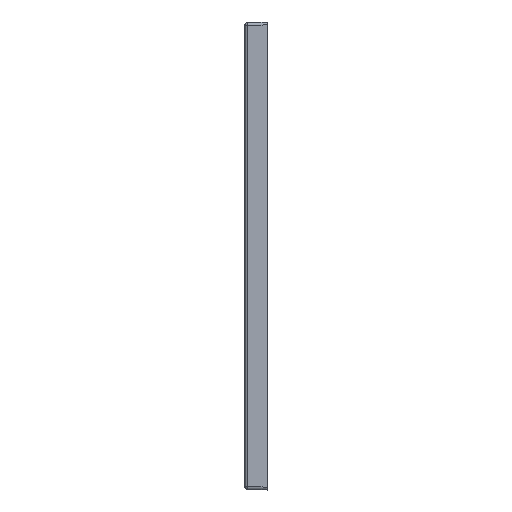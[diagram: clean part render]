
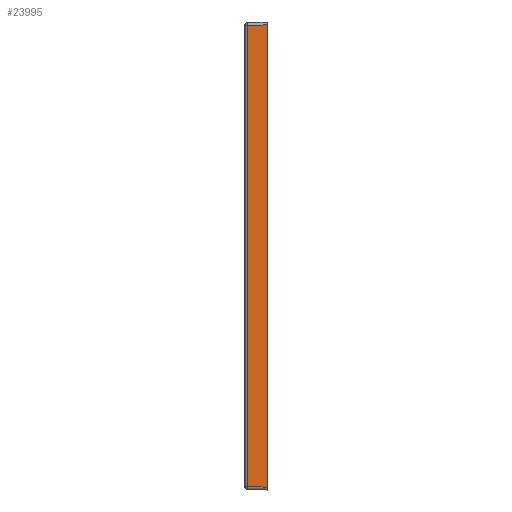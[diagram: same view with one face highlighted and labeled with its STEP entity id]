
A CAD part, left-side view. The second image highlights one B-rep face of the part: STEP entity #23995.
In plain terms, the highlighted planar face has unit normal (-1, 0.018, 0).
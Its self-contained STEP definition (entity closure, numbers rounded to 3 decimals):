
#1241 = FACE_OUTER_BOUND ( 'NONE', #8672, .T. ) ;
#1439 = CARTESIAN_POINT ( 'NONE',  ( -400.663, -38., 195. ) ) ;
#1955 = CARTESIAN_POINT ( 'NONE',  ( -399.758, 13.868, 189.759 ) ) ;
#2429 = LINE ( 'NONE', #1955, #31222 ) ;
#3373 = EDGE_CURVE ( 'NONE', #11640, #16901, #6173, .T. ) ;
#3664 = ORIENTED_EDGE ( 'NONE', *, *, #24302, .T. ) ;
#3913 = DIRECTION ( 'NONE',  ( -0.017, -1., -0.017 ) ) ;
#4550 = CARTESIAN_POINT ( 'NONE',  ( -400.086, -4.913, 190.087 ) ) ;
#6036 = VERTEX_POINT ( 'NONE', #30416 ) ;
#6173 = LINE ( 'NONE', #1439, #7993 ) ;
#7348 = EDGE_CURVE ( 'NONE', #16901, #15686, #2429, .T. ) ;
#7636 = LINE ( 'NONE', #17258, #26002 ) ;
#7670 = CARTESIAN_POINT ( 'NONE',  ( -400.663, -38., -600.664 ) ) ;
#7993 = VECTOR ( 'NONE', #20079, 1000. ) ;
#8672 = EDGE_LOOP ( 'NONE', ( #3664, #15982, #18731, #25556 ) ) ;
#9531 = EDGE_CURVE ( 'NONE', #6036, #11640, #27765, .T. ) ;
#10863 = PLANE ( 'NONE',  #15424 ) ;
#11640 = VERTEX_POINT ( 'NONE', #7670 ) ;
#11951 = VECTOR ( 'NONE', #3913, 1000. ) ;
#13670 = CARTESIAN_POINT ( 'NONE',  ( -400.002, -0.087, -600.002 ) ) ;
#15424 = AXIS2_PLACEMENT_3D ( 'NONE', #20496, #30135, #15750 ) ;
#15686 = VERTEX_POINT ( 'NONE', #4550 ) ;
#15750 = DIRECTION ( 'NONE',  ( -0.017, -1., 0. ) ) ;
#15982 = ORIENTED_EDGE ( 'NONE', *, *, #9531, .T. ) ;
#16901 = VERTEX_POINT ( 'NONE', #25070 ) ;
#17258 = CARTESIAN_POINT ( 'NONE',  ( -400.086, -4.913, -605. ) ) ;
#18731 = ORIENTED_EDGE ( 'NONE', *, *, #3373, .T. ) ;
#20079 = DIRECTION ( 'NONE',  ( 0., 0., 1. ) ) ;
#20496 = CARTESIAN_POINT ( 'NONE',  ( -400., 0., -605. ) ) ;
#23995 = ADVANCED_FACE ( 'NONE', ( #1241 ), #10863, .T. ) ;
#24302 = EDGE_CURVE ( 'NONE', #15686, #6036, #7636, .T. ) ;
#24532 = DIRECTION ( 'NONE',  ( 0., 0., -1. ) ) ;
#25070 = CARTESIAN_POINT ( 'NONE',  ( -400.663, -38., 190.664 ) ) ;
#25556 = ORIENTED_EDGE ( 'NONE', *, *, #7348, .T. ) ;
#26002 = VECTOR ( 'NONE', #24532, 1000. ) ;
#26102 = DIRECTION ( 'NONE',  ( 0.017, 1., -0.017 ) ) ;
#27765 = LINE ( 'NONE', #13670, #11951 ) ;
#30135 = DIRECTION ( 'NONE',  ( -1., 0.017, 0. ) ) ;
#30416 = CARTESIAN_POINT ( 'NONE',  ( -400.086, -4.913, -600.087 ) ) ;
#31222 = VECTOR ( 'NONE', #26102, 1000. ) ;
